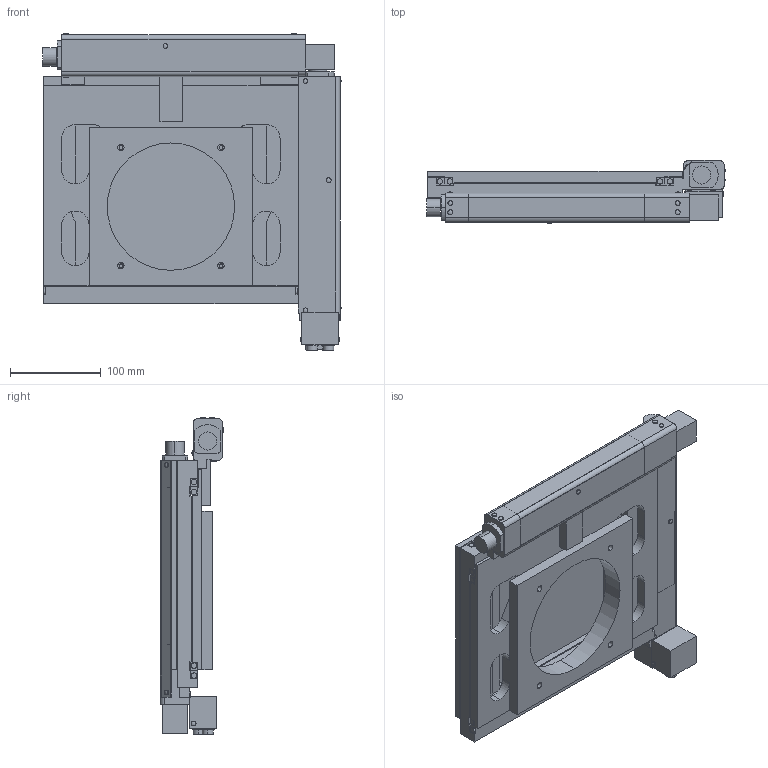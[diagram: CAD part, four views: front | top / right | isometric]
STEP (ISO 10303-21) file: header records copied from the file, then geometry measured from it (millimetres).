
FILE_DESCRIPTION (( 'STEP AP203' ), '1' );
FILE_NAME ('MSS-150D-NC.STEP', '2023-04-21T07:02:53', ( '' ), ( '' ), 'SwSTEP 2.0', 'SolidWorks 2021', '' );
FILE_SCHEMA (( 'CONFIG_CONTROL_DESIGN' ));
Length unit declared in the file: millimetre
Products named in the file (5): MSS-150D-NC; MSS-150D-NC-2; MSS-150D-NC-4; MSS-150D-NC-1; MSS-150D-NC-3
Assembly tree (4 placements, depth 2):
  MSS-150D-NC
    MSS-150D-NC-1
    MSS-150D-NC-2
    MSS-150D-NC-3
    MSS-150D-NC-4
Bounding box: 328.44 x 69.44 x 348.74 mm (x, y, z)
Volume: 1947908.9 mm3; surface area: 555117.2 mm2
Topology: 4 solids, 8 shells, 531 faces, 1311 edges, 864 vertices
Faces by surface type: plane 292, cylinder 218, bspline 21
Entity records: 20470 total; most frequent: CARTESIAN_POINT 7030, DIRECTION 2707, ORIENTED_EDGE 2622, EDGE_CURVE 1311, AXIS2_PLACEMENT_3D 925, VERTEX_POINT 864, VECTOR 857, LINE 857
